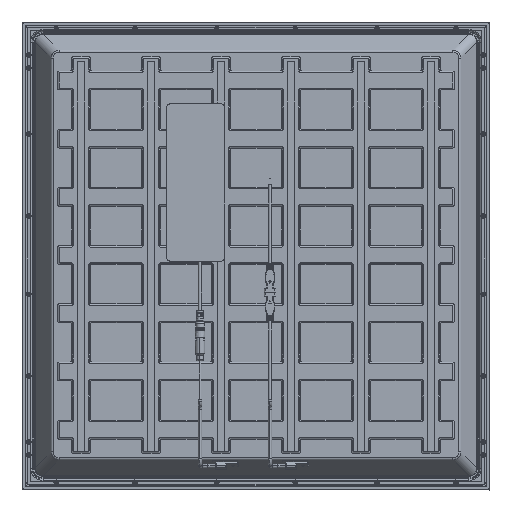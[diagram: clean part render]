
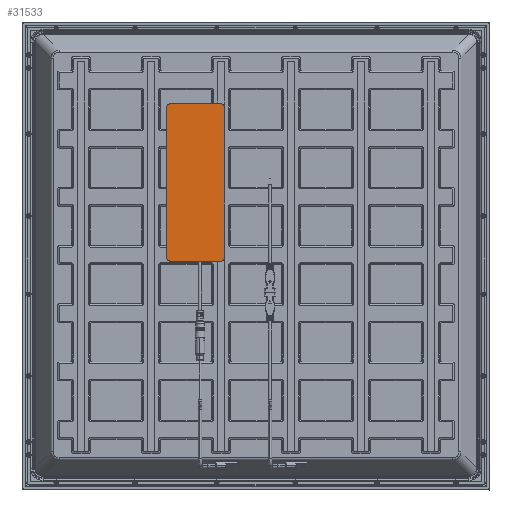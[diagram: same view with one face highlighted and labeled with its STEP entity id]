
A CAD part, top view. The second image highlights one B-rep face of the part: STEP entity #31533.
In plain terms, the highlighted planar face has unit normal (0, 0, 1).
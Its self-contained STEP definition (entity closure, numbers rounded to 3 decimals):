
#18148=LINE('',#175358,#25823);
#18149=LINE('',#175359,#25824);
#18150=LINE('',#175360,#25825);
#18151=LINE('',#175361,#25826);
#25823=VECTOR('',#127064,1.);
#25824=VECTOR('',#127065,1.);
#25825=VECTOR('',#127066,1.);
#25826=VECTOR('',#127067,1.);
#31533=ADVANCED_FACE('NONE',(#39489),#34885,.F.);
#34885=PLANE('',#107016);
#39489=FACE_OUTER_BOUND('',#45216,.T.);
#45216=EDGE_LOOP('',(#70148,#70149,#70150,#70151,#70152,#70153,#70154,#70155));
#48806=CIRCLE('',#107005,5.);
#48808=CIRCLE('',#107008,5.);
#48810=CIRCLE('',#107011,5.);
#48812=CIRCLE('',#107014,5.);
#70148=ORIENTED_EDGE('',*,*,#96460,.F.);
#70149=ORIENTED_EDGE('',*,*,#96458,.T.);
#70150=ORIENTED_EDGE('',*,*,#96461,.F.);
#70151=ORIENTED_EDGE('',*,*,#96446,.T.);
#70152=ORIENTED_EDGE('',*,*,#96462,.F.);
#70153=ORIENTED_EDGE('',*,*,#96450,.T.);
#70154=ORIENTED_EDGE('',*,*,#96463,.F.);
#70155=ORIENTED_EDGE('',*,*,#96454,.T.);
#83953=VERTEX_POINT('',#175326);
#83954=VERTEX_POINT('',#175328);
#83957=VERTEX_POINT('',#175335);
#83958=VERTEX_POINT('',#175337);
#83961=VERTEX_POINT('',#175344);
#83962=VERTEX_POINT('',#175346);
#83965=VERTEX_POINT('',#175353);
#83966=VERTEX_POINT('',#175355);
#96446=EDGE_CURVE('NONE',#83954,#83953,#48806,.T.);
#96450=EDGE_CURVE('NONE',#83958,#83957,#48808,.T.);
#96454=EDGE_CURVE('NONE',#83962,#83961,#48810,.T.);
#96458=EDGE_CURVE('NONE',#83966,#83965,#48812,.T.);
#96460=EDGE_CURVE('NONE',#83966,#83961,#18148,.T.);
#96461=EDGE_CURVE('NONE',#83954,#83965,#18149,.T.);
#96462=EDGE_CURVE('NONE',#83958,#83953,#18150,.T.);
#96463=EDGE_CURVE('NONE',#83962,#83957,#18151,.T.);
#107005=AXIS2_PLACEMENT_3D('',#175327,#127035,#127036);
#107008=AXIS2_PLACEMENT_3D('',#175336,#127043,#127044);
#107011=AXIS2_PLACEMENT_3D('',#175345,#127051,#127052);
#107014=AXIS2_PLACEMENT_3D('',#175354,#127059,#127060);
#107016=AXIS2_PLACEMENT_3D('',#175362,#127068,#127069);
#127035=DIRECTION('',(0.,0.,1.));
#127036=DIRECTION('',(0.,-1.,0.));
#127043=DIRECTION('',(0.,0.,1.));
#127044=DIRECTION('',(0.,-1.,0.));
#127051=DIRECTION('',(0.,0.,1.));
#127052=DIRECTION('',(0.,-1.,0.));
#127059=DIRECTION('',(0.,0.,1.));
#127060=DIRECTION('',(0.,-1.,0.));
#127064=DIRECTION('',(1.,0.,0.));
#127065=DIRECTION('',(0.,1.,0.));
#127066=DIRECTION('',(-1.,0.,0.));
#127067=DIRECTION('',(0.,-1.,0.));
#127068=DIRECTION('',(0.,0.,-1.));
#127069=DIRECTION('',(0.,-1.,0.));
#175326=CARTESIAN_POINT('',(-108.755,-6.599,68.833));
#175327=CARTESIAN_POINT('',(-108.755,-1.599,68.833));
#175328=CARTESIAN_POINT('',(-113.755,-1.599,68.833));
#175335=CARTESIAN_POINT('',(-39.755,-1.599,68.833));
#175336=CARTESIAN_POINT('',(-44.755,-1.599,68.833));
#175337=CARTESIAN_POINT('',(-44.755,-6.599,68.833));
#175344=CARTESIAN_POINT('',(-44.755,193.401,68.833));
#175345=CARTESIAN_POINT('',(-44.755,188.401,68.833));
#175346=CARTESIAN_POINT('',(-39.755,188.401,68.833));
#175353=CARTESIAN_POINT('',(-113.755,188.401,68.833));
#175354=CARTESIAN_POINT('',(-108.755,188.401,68.833));
#175355=CARTESIAN_POINT('',(-108.755,193.401,68.833));
#175358=CARTESIAN_POINT('',(-113.755,193.401,68.833));
#175359=CARTESIAN_POINT('',(-113.755,193.401,68.833));
#175360=CARTESIAN_POINT('',(-113.755,-6.599,68.833));
#175361=CARTESIAN_POINT('',(-39.755,193.401,68.833));
#175362=CARTESIAN_POINT('',(-76.755,93.401,68.833));
